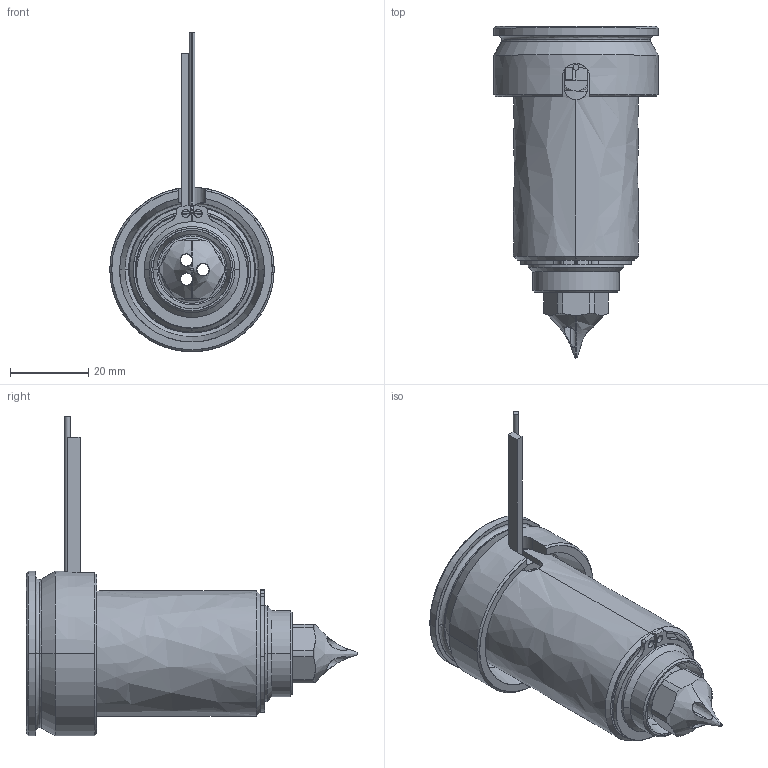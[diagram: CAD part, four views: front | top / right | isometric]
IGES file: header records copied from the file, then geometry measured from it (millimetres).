
Start section: SolidWorks IGES file using analytic representation for surfaces
Global section: file name: C:\Users\luca.EMPAD\Desktop\TEM\UGDL3612-S-A-1 [Øf=0.6 ØC=09].IGS; native system: SolidWorks 2012; preprocessor: SolidWorks 2012; author: luca; date: 120330.155626; units: millimetre
Bounding box: 42 x 84.8 x 81.65 mm (x, y, z)
Surface area: 26959.7 mm2 (no closed solid volume)
Topology: 0 solids, 0 shells, 126 faces, 2238 edges, 2238 vertices
Faces by surface type: revolution 81, bspline 45
